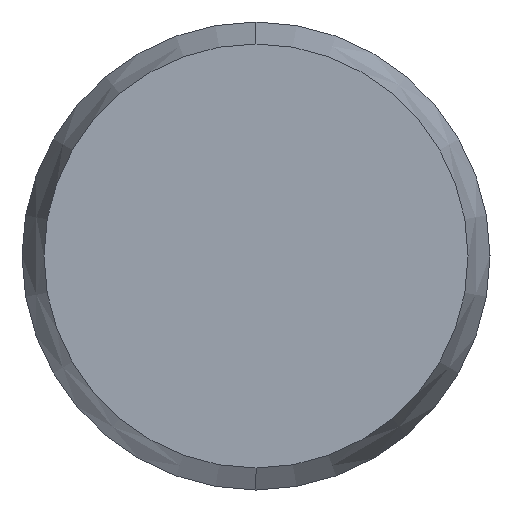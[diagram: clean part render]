
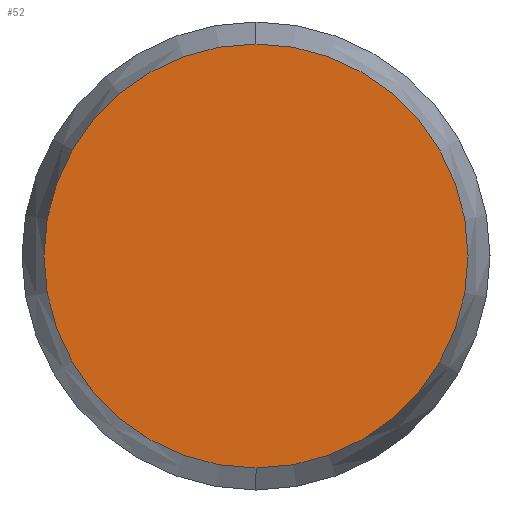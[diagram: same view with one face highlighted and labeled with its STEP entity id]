
A CAD part, left-side view. The second image highlights one B-rep face of the part: STEP entity #52.
In plain terms, the highlighted planar face has unit normal (-1, 0, 0).
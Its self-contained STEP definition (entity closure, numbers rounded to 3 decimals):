
#23 = VERTEX_POINT ( 'NONE', #133 ) ;
#28 = EDGE_CURVE ( 'NONE', #23, #29, #123, .T. ) ;
#29 = VERTEX_POINT ( 'NONE', #118 ) ;
#43 = ORIENTED_EDGE ( 'NONE', *, *, #48, .F. ) ;
#44 = EDGE_LOOP ( 'NONE', ( #53, #43 ) ) ;
#48 = EDGE_CURVE ( 'NONE', #29, #23, #162, .T. ) ;
#52 = ADVANCED_FACE ( 'NONE', ( #157 ), #156, .F. ) ;
#53 = ORIENTED_EDGE ( 'NONE', *, *, #28, .F. ) ;
#118 = CARTESIAN_POINT ( 'NONE',  ( -5., 0., -1.812 ) ) ;
#119 = DIRECTION ( 'NONE',  ( 0., 0., -1. ) ) ;
#120 = DIRECTION ( 'NONE',  ( 1., 0., 0. ) ) ;
#121 = CARTESIAN_POINT ( 'NONE',  ( -5., 0., 0. ) ) ;
#122 = AXIS2_PLACEMENT_3D ( 'NONE', #121, #120, #119 ) ;
#123 = CIRCLE ( 'NONE', #122, 1.812 ) ;
#133 = CARTESIAN_POINT ( 'NONE',  ( -5., 0., 1.812 ) ) ;
#151 = DIRECTION ( 'NONE',  ( 0., 0., -1. ) ) ;
#152 = DIRECTION ( 'NONE',  ( 1., 0., 0. ) ) ;
#153 = CARTESIAN_POINT ( 'NONE',  ( -5., 0., 0. ) ) ;
#155 = AXIS2_PLACEMENT_3D ( 'NONE', #153, #152, #151 ) ;
#156 = PLANE ( 'NONE',  #155 ) ;
#157 = FACE_OUTER_BOUND ( 'NONE', #44, .T. ) ;
#158 = DIRECTION ( 'NONE',  ( 0., 0., -1. ) ) ;
#159 = DIRECTION ( 'NONE',  ( 1., 0., 0. ) ) ;
#160 = CARTESIAN_POINT ( 'NONE',  ( -5., 0., 0. ) ) ;
#161 = AXIS2_PLACEMENT_3D ( 'NONE', #160, #159, #158 ) ;
#162 = CIRCLE ( 'NONE', #161, 1.812 ) ;
